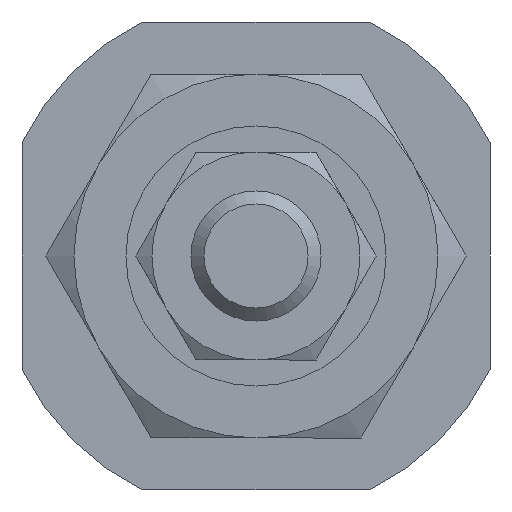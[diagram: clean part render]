
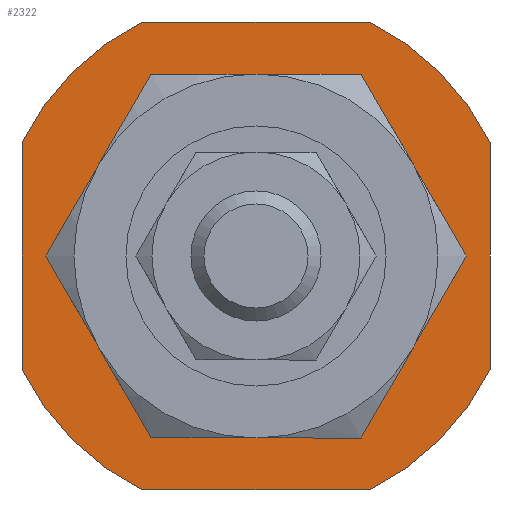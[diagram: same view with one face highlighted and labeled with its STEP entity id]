
A CAD part, left-side view. The second image highlights one B-rep face of the part: STEP entity #2322.
In plain terms, the highlighted planar face has unit normal (-1, 0, 0).
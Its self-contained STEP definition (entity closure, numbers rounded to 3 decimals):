
#1926=CARTESIAN_POINT('',(-200.899,-4.359,9.));
#1927=VERTEX_POINT('',#1926);
#1942=CARTESIAN_POINT('',(-200.899,4.359,9.0));
#1943=VERTEX_POINT('',#1942);
#1950=CARTESIAN_POINT('',(-200.899,-4.359,9.));
#1951=DIRECTION('',(0.0,1.0,0.0));
#1952=VECTOR('',#1951,8.718);
#1953=LINE('',#1950,#1952);
#1954=EDGE_CURVE('',#1927,#1943,#1953,.T.);
#2003=CARTESIAN_POINT('',(-200.899,4.359,-9.0));
#2004=VERTEX_POINT('',#2003);
#2019=CARTESIAN_POINT('',(-200.899,-4.359,-9.));
#2020=VERTEX_POINT('',#2019);
#2027=CARTESIAN_POINT('',(-200.899,4.359,-9.0));
#2028=DIRECTION('',(0.0,-1.0,0.0));
#2029=VECTOR('',#2028,8.718);
#2030=LINE('',#2027,#2029);
#2031=EDGE_CURVE('',#2004,#2020,#2030,.T.);
#2043=CARTESIAN_POINT('',(-200.899,-9.,-4.359));
#2044=VERTEX_POINT('',#2043);
#2059=CARTESIAN_POINT('',(-200.899,-9.,4.359));
#2060=VERTEX_POINT('',#2059);
#2067=CARTESIAN_POINT('',(-200.899,-9.,-4.359));
#2068=DIRECTION('',(0.0,0.0,1.0));
#2069=VECTOR('',#2068,8.718);
#2070=LINE('',#2067,#2069);
#2071=EDGE_CURVE('',#2044,#2060,#2070,.T.);
#2083=CARTESIAN_POINT('',(-200.899,9.,4.359));
#2084=VERTEX_POINT('',#2083);
#2099=CARTESIAN_POINT('',(-200.899,9.,-4.359));
#2100=VERTEX_POINT('',#2099);
#2107=CARTESIAN_POINT('',(-200.899,9.,4.359));
#2108=DIRECTION('',(0.0,0.0,-1.0));
#2109=VECTOR('',#2108,8.718);
#2110=LINE('',#2107,#2109);
#2111=EDGE_CURVE('',#2084,#2100,#2110,.T.);
#2232=CARTESIAN_POINT('',(-200.899,0.,0.0));
#2233=DIRECTION('',(-1.0,0.,0.0));
#2234=DIRECTION('',(0.,1.0,0.0));
#2235=AXIS2_PLACEMENT_3D('',#2232,#2233,#2234);
#2236=CIRCLE('',#2235,10.);
#2237=EDGE_CURVE('',#1943,#2084,#2236,.T.);
#2256=CARTESIAN_POINT('',(-200.899,0.,0.0));
#2257=DIRECTION('',(-1.0,0.,0.0));
#2258=DIRECTION('',(0.,1.0,0.0));
#2259=AXIS2_PLACEMENT_3D('',#2256,#2257,#2258);
#2260=CIRCLE('',#2259,10.);
#2261=EDGE_CURVE('',#2020,#2044,#2260,.T.);
#2272=CARTESIAN_POINT('',(-200.899,0.,0.0));
#2273=DIRECTION('',(-1.0,0.,0.0));
#2274=DIRECTION('',(0.,1.0,0.0));
#2275=AXIS2_PLACEMENT_3D('',#2272,#2273,#2274);
#2276=CIRCLE('',#2275,10.);
#2277=EDGE_CURVE('',#2100,#2004,#2276,.T.);
#2290=CARTESIAN_POINT('',(-200.899,7.5,0.0));
#2291=DIRECTION('',(-1.0,0.0,0.0));
#2292=DIRECTION('',(0.0,0.0,1.0));
#2293=AXIS2_PLACEMENT_3D('',#2290,#2291,#2292);
#2294=PLANE('',#2293);
#2295=ORIENTED_EDGE('',*,*,#1954,.T.);
#2296=ORIENTED_EDGE('',*,*,#2237,.T.);
#2297=ORIENTED_EDGE('',*,*,#2111,.T.);
#2298=ORIENTED_EDGE('',*,*,#2277,.T.);
#2299=ORIENTED_EDGE('',*,*,#2031,.T.);
#2300=ORIENTED_EDGE('',*,*,#2261,.T.);
#2301=ORIENTED_EDGE('',*,*,#2071,.T.);
#2302=CARTESIAN_POINT('',(-200.899,0.,0.0));
#2303=DIRECTION('',(-1.0,0.,0.0));
#2304=DIRECTION('',(0.,1.0,0.0));
#2305=AXIS2_PLACEMENT_3D('',#2302,#2303,#2304);
#2306=CIRCLE('',#2305,10.);
#2307=EDGE_CURVE('',#2060,#1927,#2306,.T.);
#2308=ORIENTED_EDGE('',*,*,#2307,.T.);
#2309=EDGE_LOOP('',(#2295,#2296,#2297,#2298,#2299,#2300,#2301,#2308));
#2310=FACE_OUTER_BOUND('',#2309,.T.);
#2311=CARTESIAN_POINT('',(-200.899,5.,0.0));
#2312=VERTEX_POINT('',#2311);
#2313=CARTESIAN_POINT('',(-200.899,0.,0.0));
#2314=DIRECTION('',(-1.0,0.,0.0));
#2315=DIRECTION('',(0.,1.0,0.0));
#2316=AXIS2_PLACEMENT_3D('',#2313,#2314,#2315);
#2317=CIRCLE('',#2316,5.);
#2318=EDGE_CURVE('',#2312,#2312,#2317,.T.);
#2319=ORIENTED_EDGE('',*,*,#2318,.F.);
#2320=EDGE_LOOP('',(#2319));
#2321=FACE_BOUND('',#2320,.T.);
#2322=ADVANCED_FACE('',(#2310,#2321),#2294,.T.);
